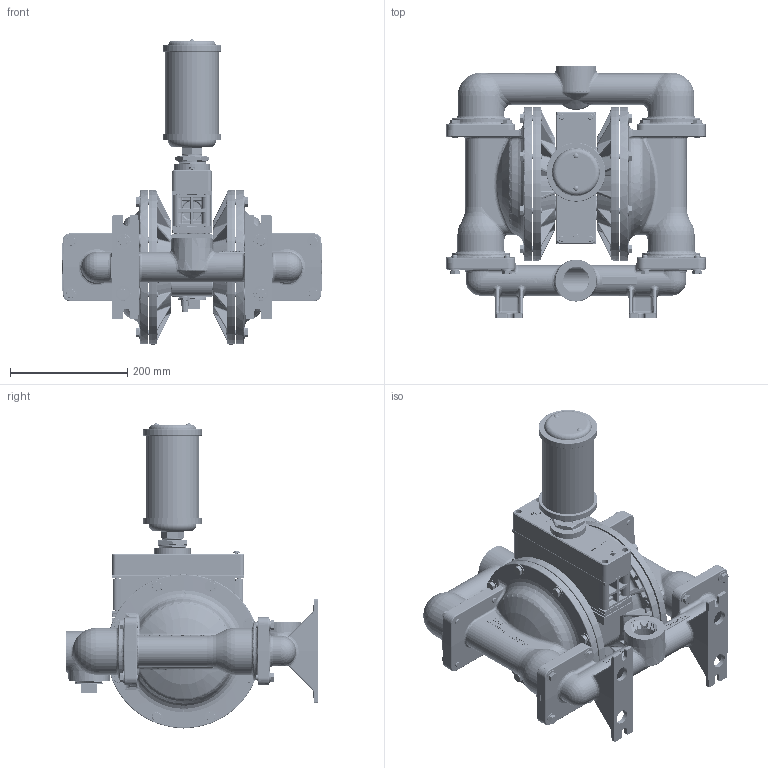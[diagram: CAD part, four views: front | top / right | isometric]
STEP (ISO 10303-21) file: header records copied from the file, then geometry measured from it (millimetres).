
FILE_DESCRIPTION((''),'2;1');
FILE_NAME('PS400_ADV_SS_VERT_TOP_SW0001','2013-06-10T',('Bill.Watson'),(''),'PRO/ENGINEER BY PARAMETRIC TECHNOLOGY CORPORATION, 2011180','PRO/ENGINEER BY PARAMETRIC TECHNOLOGY CORPORATION, 2011180','');
FILE_SCHEMA(('CONFIG_CONTROL_DESIGN'));
Length unit declared in the file: inch
Products named in the file (1): PS400_ADV_SS_VERT_TOP_SW0001
Bounding box: 443.47 x 429.26 x 521.16 mm (x, y, z)
Volume: 7973192.8 mm3; surface area: 1825170.8 mm2
Topology: 4 solids, 12 shells, 18908 faces, 49857 edges, 31547 vertices
Faces by surface type: plane 11575, bspline 2418, cylinder 2024, torus 1314, cone 1065, sphere 442, extrusion 70
Entity records: 1067157 total; most frequent: CARTESIAN_POINT 618098, ORIENTED_EDGE 99262, DIRECTION 84563, EDGE_CURVE 49631, VECTOR 32929, LINE 32859, VERTEX_POINT 31547, AXIS2_PLACEMENT_3D 25817
